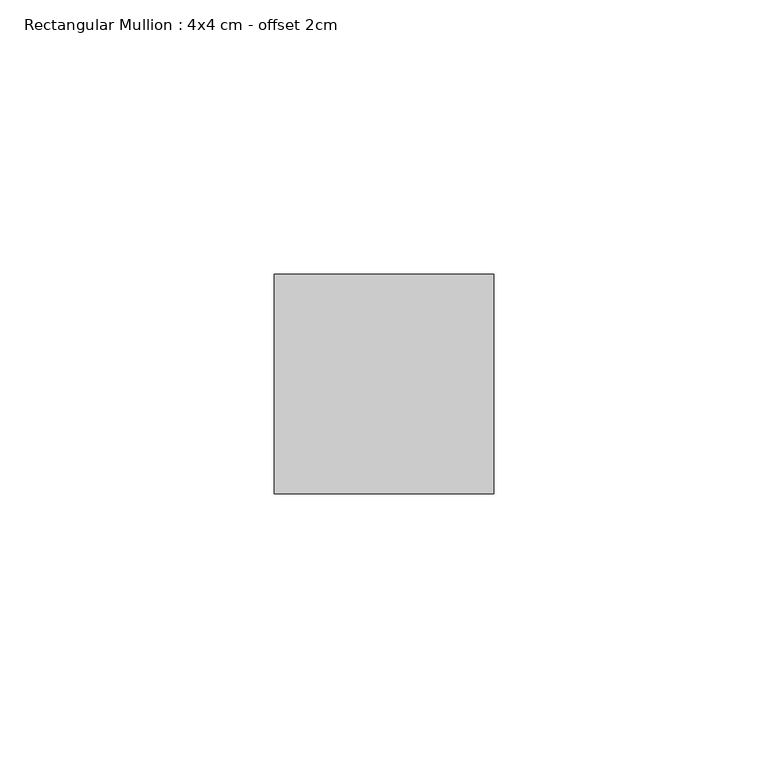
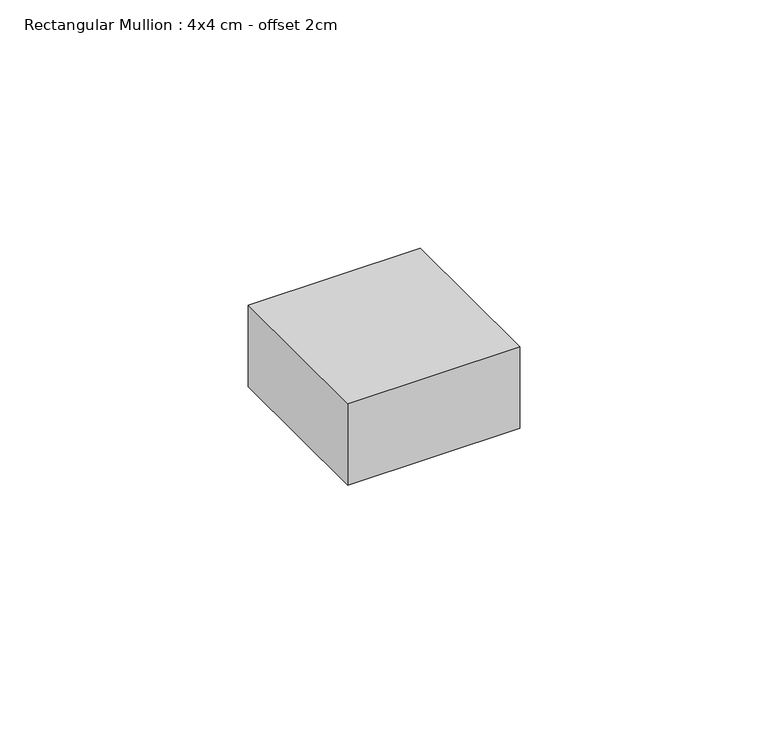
"""IFC4 building model written with IfcOpenShell, lengths in millimetres: member geometry, Rectangular Mullion : 4x4 cm - offset 2cm."""

from ifc_helpers import new_model, si_unit, frame, origin, place, context, project, spatial, polyline, outline, extrude, source, transform, mapped, element, save


def rectangular_mullion_4x4_cm_offset_2cm_9d20afd9(model_context):
    return source(origin(), model_context, "Body", "SweptSolid", [
        extrude(outline(polyline([(40.0, 40.0), (40.0, 0.0), (0.0, 0.0), (0.0, 40.0), (40.0, 40.0)])), frame((0.0, 0.0, -20.0), z_axis=(0.0, 0.0, 1.0), x_axis=(1.0, 0.0, 0.0)), (0.0, 0.0, 1.0), 20.0),
    ])


if __name__ == "__main__":
    model = new_model("IFC4")
    model_context = context("Model", 3, world=origin())
    ifc_project = project(units=[si_unit("LENGTHUNIT", "METRE", prefix="MILLI")], contexts=[model_context])
    site = spatial("IfcSite", under=ifc_project)
    building = spatial("IfcBuilding", under=site)
    placement = place(None, origin())
    rectangular_mullion_4x4_cm_offset_2cm_shape = rectangular_mullion_4x4_cm_offset_2cm_9d20afd9(model_context)
    element("IfcMember", 1, ObjectType="Rectangular Mullion : 4x4 cm - offset 2cm", at=placement, inside=building, context=model_context, shape_type="MappedRepresentation", body=[
        mapped(rectangular_mullion_4x4_cm_offset_2cm_shape, transform((0.0, 0.0, 0.0), x_axis=(1.0, 0.0, 0.0), y_axis=(0.0, 1.0, 0.0), z_axis=(0.0, 0.0, 1.0))),
    ])
    save(model, "model.ifc")
